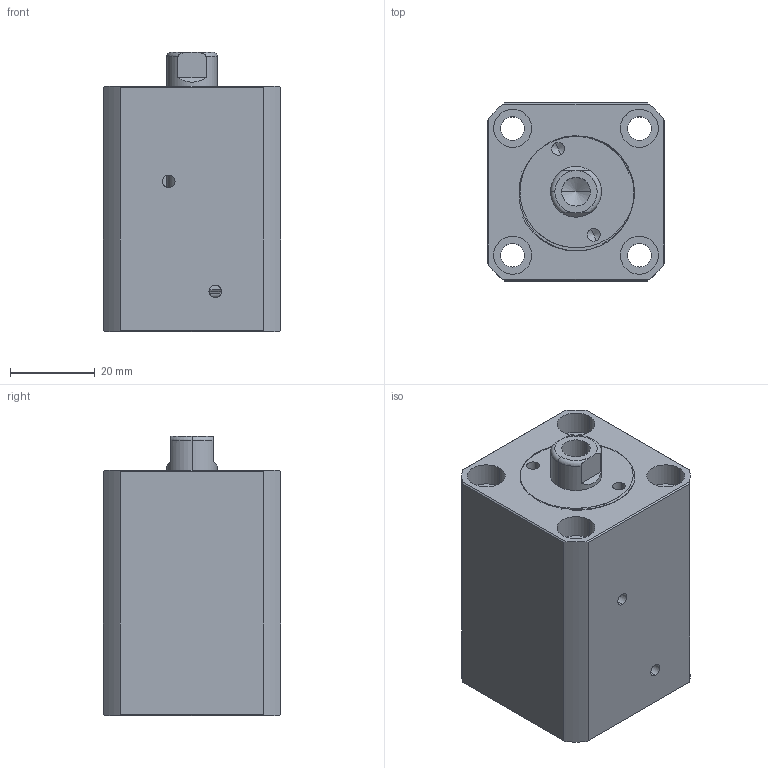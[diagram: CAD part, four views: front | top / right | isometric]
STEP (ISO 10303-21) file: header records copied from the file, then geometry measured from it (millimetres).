
FILE_DESCRIPTION (( 'STEP AP214' ), '1' );
FILE_NAME ('chtb-sdmb20x15n_asm.STEP', '2018-05-18T08:25:52', ( 'Windows' ), ( 'Microsoft' ), 'SwSTEP 2.0', 'SolidWorks 2015', '' );
FILE_SCHEMA (( 'AUTOMOTIVE_DESIGN' ));
Length unit declared in the file: millimetre
Products named in the file (4): QG_3; CHTB-SDMB20X15NHSG; CHTB-SDMB20X15NBT; chtb-sdmb20x15n_asm
Assembly tree (3 placements, depth 2):
  chtb-sdmb20x15n_asm
    CHTB-SDMB20X15NBT
    CHTB-SDMB20X15NHSG
    QG_3
Bounding box: 42 x 42 x 66 mm (x, y, z)
Volume: 88522.8 mm3; surface area: 29397.4 mm2
Topology: 3 solids, 3 shells, 201 faces, 535 edges, 354 vertices
Faces by surface type: cylinder 106, plane 43, torus 25, bspline 21, cone 6
Entity records: 11558 total; most frequent: CARTESIAN_POINT 6663, ORIENTED_EDGE 1058, DIRECTION 922, EDGE_CURVE 529, AXIS2_PLACEMENT_3D 388, VERTEX_POINT 354, EDGE_LOOP 239, CIRCLE 202
